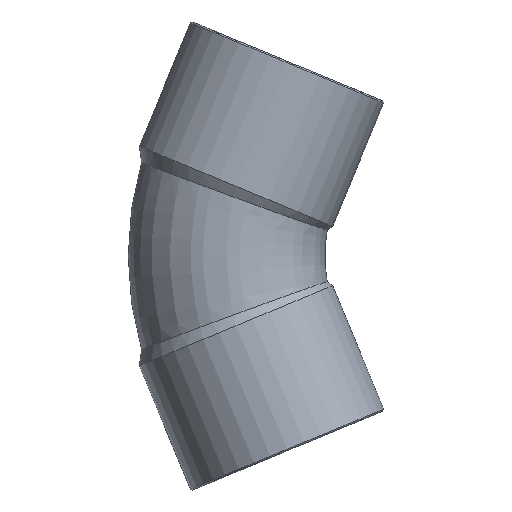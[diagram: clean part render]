
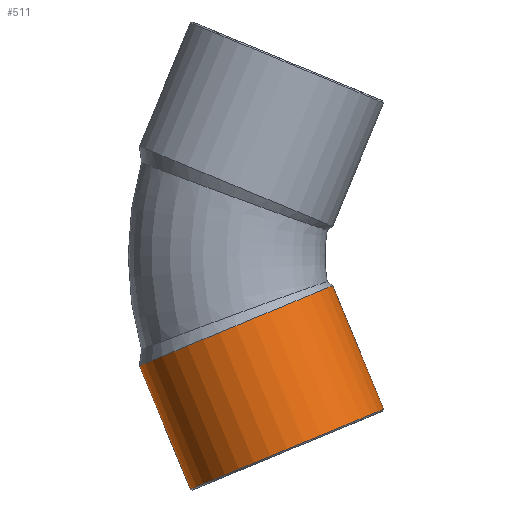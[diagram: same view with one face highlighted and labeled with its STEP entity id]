
A CAD part, front view. The second image highlights one B-rep face of the part: STEP entity #511.
In plain terms, the highlighted cylindrical face has radius 14.9 mm (diameter 29.8 mm), a partial arc.
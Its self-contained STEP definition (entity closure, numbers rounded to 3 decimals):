
#201=CARTESIAN_POINT('',(-41.582,0.,-15.642));
#202=VERTEX_POINT('',#201);
#209=CARTESIAN_POINT('',(-14.05,0.,-4.238));
#210=VERTEX_POINT('',#209);
#211=CARTESIAN_POINT('',(-27.816,0.,-9.94));
#212=DIRECTION('',(-0.383,0.,0.924));
#213=DIRECTION('',(0.924,0.,0.383));
#214=AXIS2_PLACEMENT_3D('',#211,#212,#213);
#215=CIRCLE('',#214,14.9);
#216=EDGE_CURVE('',#202,#210,#215,.T.);
#480=CARTESIAN_POINT('',(-27.724,0.,-10.163));
#481=DIRECTION('',(0.383,0.,-0.924));
#482=DIRECTION('',(0.924,0.,0.383));
#483=AXIS2_PLACEMENT_3D('',#480,#481,#482);
#484=CYLINDRICAL_SURFACE('',#483,14.9);
#485=CARTESIAN_POINT('',(-6.764,0.,-21.83));
#486=VERTEX_POINT('',#485);
#487=CARTESIAN_POINT('',(-14.05,0.,-4.238));
#488=DIRECTION('',(0.383,0.,-0.924));
#489=VECTOR('',#488,19.041);
#490=LINE('',#487,#489);
#491=EDGE_CURVE('',#210,#486,#490,.T.);
#492=ORIENTED_EDGE('',*,*,#491,.F.);
#493=ORIENTED_EDGE('',*,*,#216,.F.);
#494=CARTESIAN_POINT('',(-34.295,0.,-33.234));
#495=VERTEX_POINT('',#494);
#496=CARTESIAN_POINT('',(-34.295,0.,-33.234));
#497=DIRECTION('',(-0.383,0.,0.924));
#498=VECTOR('',#497,19.041);
#499=LINE('',#496,#498);
#500=EDGE_CURVE('',#495,#202,#499,.T.);
#501=ORIENTED_EDGE('',*,*,#500,.F.);
#502=CARTESIAN_POINT('',(-20.529,0.,-27.532));
#503=DIRECTION('',(0.383,0.,-0.924));
#504=DIRECTION('',(0.924,0.,0.383));
#505=AXIS2_PLACEMENT_3D('',#502,#503,#504);
#506=CIRCLE('',#505,14.9);
#507=EDGE_CURVE('',#486,#495,#506,.T.);
#508=ORIENTED_EDGE('',*,*,#507,.F.);
#509=EDGE_LOOP('',(#492,#493,#501,#508));
#510=FACE_OUTER_BOUND('',#509,.T.);
#511=ADVANCED_FACE('',(#510),#484,.T.);
